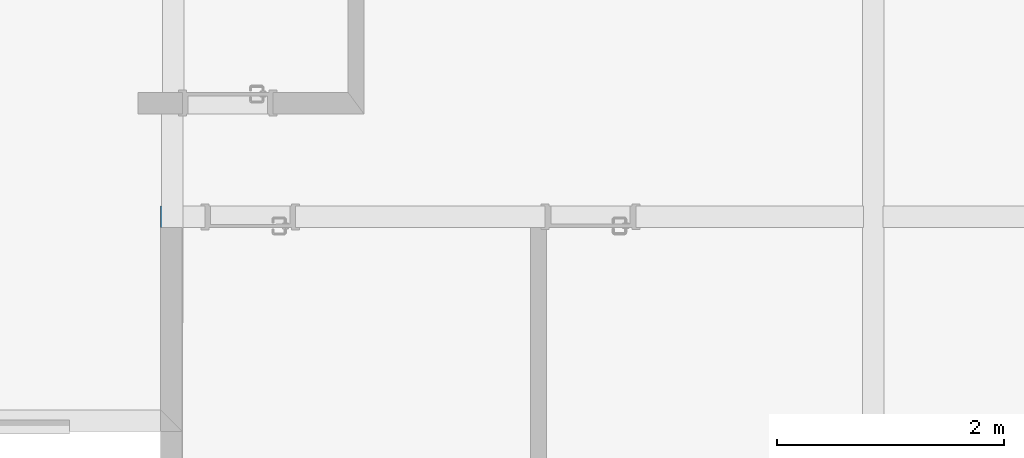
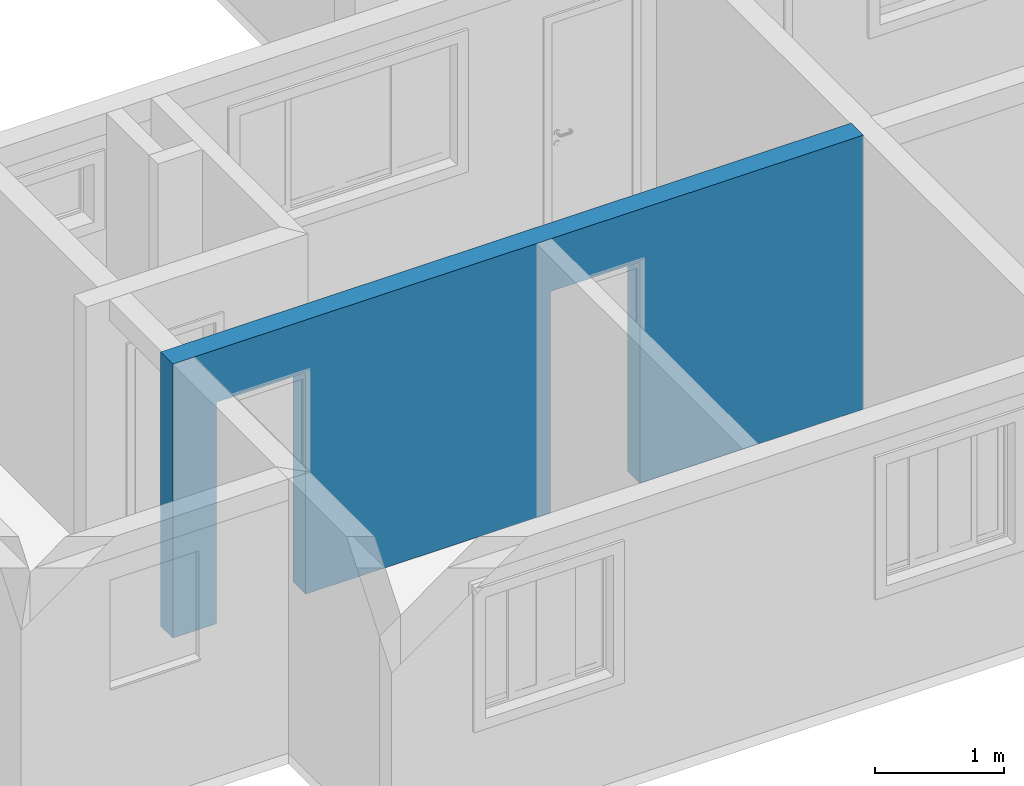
# One storey, part 5 of 43: 1 wall, 2 openings.
"""IFC2X3 building model written with IfcOpenShell, lengths in millimetres."""

import ifcopenshell
import ifcopenshell.guid

model = None  # the IFC model being written
_history = None  # IfcOwnerHistory: only IFC2X3 demands one
_inside = {}  # id of a spatial element -> (the spatial element, [elements in it])
_under = {}  # id of a project, library or spatial element -> (it, [spatial elements below it])
_declared = {}  # id of a project -> (the project, [libraries it declares])
_typed = {}  # id of a type object -> (the type object, [elements of that type])
_made_of = {}  # id of a material, layer set ... -> (it, [elements and type objects made of it])


def new_model(schema):
    """Start an empty IFC model of exactly this schema.

    Asked for "IFC4X3", IfcOpenShell would pick the latest addendum, in which some entities
    have other attributes; the version numbers below select the first issue.
    IFC2X3 requires an IfcOwnerHistory on every rooted entity: one is made here for all.
    """
    global model, _history
    if schema == "IFC4X3":
        model = ifcopenshell.file(schema_version=(4, 3, 0, 0))
    else:
        model = ifcopenshell.file(schema=schema)
    _inside.clear()
    _under.clear()
    _declared.clear()
    _typed.clear()
    _made_of.clear()
    _history = None
    if model.schema == "IFC2X3":
        org = make("IfcOrganization", Name="unknown")
        user = make(
            "IfcPersonAndOrganization",
            ThePerson=make("IfcPerson", FamilyName="unknown"),
            TheOrganization=org,
        )
        app = make(
            "IfcApplication",
            ApplicationDeveloper=org,
            Version="unknown",
            ApplicationFullName="unknown",
            ApplicationIdentifier="unknown",
        )
        _history = make(
            "IfcOwnerHistory",
            OwningUser=user,
            OwningApplication=app,
            ChangeAction="ADDED",
            CreationDate=0,
        )
    return model


def make(cls, **values):
    """One entity of the class cls with the attributes given. An attribute that is None is left unset."""
    return model.create_entity(
        cls, **{name: value for name, value in values.items() if value is not None}
    )


def entity(cls, *values):
    """Any entity or typed value of the class cls, its attributes in the order of the schema. None: left unset."""
    e = model.create_entity(cls)
    for i, value in enumerate(values):
        if value is not None:
            e[i] = value
    return e


def rooted(cls, **values):
    """An entity with a GlobalId (a new one), such as an element, a storey or a relation."""
    return make(cls, GlobalId=ifcopenshell.guid.new(), OwnerHistory=_history, **values)


def si_unit(unit_type, name, prefix=None):
    """IfcSIUnit, for example si_unit("LENGTHUNIT", "METRE", prefix="MILLI")."""
    return make("IfcSIUnit", UnitType=unit_type, Prefix=prefix, Name=name)


def converted_unit(unit_type, name, factor, base, dimensions=None, offset=None):
    """IfcConversionBasedUnit, such as the inch: factor (a typed value) times the base unit."""
    return make(
        "IfcConversionBasedUnit"
        if offset is None
        else "IfcConversionBasedUnitWithOffset",
        ConversionOffset=offset,
        Dimensions=None
        if dimensions is None
        else entity("IfcDimensionalExponents", *dimensions),
        UnitType=unit_type,
        Name=name,
        ConversionFactor=make(
            "IfcMeasureWithUnit", ValueComponent=factor, UnitComponent=base
        ),
    )


def derived_unit(unit_type, elements):
    """IfcDerivedUnit: a product of units, each with its exponent."""
    return make(
        "IfcDerivedUnit",
        Elements=[
            make("IfcDerivedUnitElement", Unit=unit, Exponent=power)
            for unit, power in elements
        ],
        UnitType=unit_type,
    )


def money_unit(currency):
    """IfcMonetaryUnit."""
    return make("IfcMonetaryUnit", Currency=currency)


def assignment(units):
    """IfcUnitAssignment: the units of a project."""
    return None if units is None else make("IfcUnitAssignment", Units=units)


def point(xyz):
    """IfcCartesianPoint."""
    return None if xyz is None else make("IfcCartesianPoint", Coordinates=xyz)


def direction(xyz):
    """IfcDirection."""
    return None if xyz is None else make("IfcDirection", DirectionRatios=xyz)


def frame(location, z_axis=None, x_axis=None):
    """IfcAxis2Placement3D, a coordinate frame: its origin and axes. An axis left out is left unset."""
    return make(
        "IfcAxis2Placement3D",
        Location=point(location),
        Axis=direction(z_axis),
        RefDirection=direction(x_axis),
    )


def frame_2d(location, x_axis=None):
    """IfcAxis2Placement2D, a coordinate frame in the plane: its origin and x axis."""
    return make(
        "IfcAxis2Placement2D", Location=point(location), RefDirection=direction(x_axis)
    )


def origin_with_axes():
    """The frame at (0, 0, 0) with the z axis (0, 0, 1) and the x axis (1, 0, 0) written out."""
    return frame((0.0, 0.0, 0.0), z_axis=(0.0, 0.0, 1.0), x_axis=(1.0, 0.0, 0.0))


def origin_2d_with_axis():
    """The frame at (0, 0) in the plane with the x axis (1, 0) written out."""
    return frame_2d((0.0, 0.0), x_axis=(1.0, 0.0))


def place(relative_to, where):
    """IfcLocalPlacement: puts the frame where relative to a parent placement (None: the world)."""
    return make(
        "IfcLocalPlacement", PlacementRelTo=relative_to, RelativePlacement=where
    )


def context(
    kind, dimensions, precision=None, world=None, true_north=None, identifier=None
):
    """IfcGeometricRepresentationContext, for example the 3D "Model" context."""
    return make(
        "IfcGeometricRepresentationContext",
        ContextIdentifier=identifier,
        ContextType=kind,
        CoordinateSpaceDimension=dimensions,
        Precision=precision,
        WorldCoordinateSystem=world,
        TrueNorth=true_north,
    )


def subcontext(parent, identifier, kind, view, scale=None):
    """IfcGeometricRepresentationSubContext, for example "Body" below "Model"."""
    return make(
        "IfcGeometricRepresentationSubContext",
        ContextIdentifier=identifier,
        ContextType=kind,
        ParentContext=parent,
        TargetScale=scale,
        TargetView=view,
    )


def project(units=None, contexts=None):
    """IfcProject with its units and contexts."""
    return rooted(
        "IfcProject",
        Name="project",
        RepresentationContexts=contexts,
        UnitsInContext=assignment(units),
    )


def spatial(cls, under=None, at=None, **own):
    """A site, building, storey or space (cls), placed at a placement, below another one or the project."""
    s = rooted(cls, ObjectPlacement=at, **own)
    if under is not None:
        _under.setdefault(under.id(), (under, []))[1].append(s)
    return s


def polyline(points):
    """IfcPolyline through the points."""
    return make("IfcPolyline", Points=[point(p) for p in points])


def profile(cls, at=None, kind="AREA", **sizes):
    """A parametric profile (cls). Its sizes go by their IFC names, for example OverallWidth=200.0."""
    return make(cls, ProfileType=kind, Position=at, **sizes)


def rectangle(**sizes):
    """IfcRectangleProfileDef."""
    return profile("IfcRectangleProfileDef", **sizes)


def outline(outer, holes=None, kind="AREA"):
    """IfcArbitraryClosedProfileDef: a profile drawn as a closed curve; with holes, ...WithVoids."""
    if holes is None:
        return make("IfcArbitraryClosedProfileDef", ProfileType=kind, OuterCurve=outer)
    return make(
        "IfcArbitraryProfileDefWithVoids",
        ProfileType=kind,
        OuterCurve=outer,
        InnerCurves=holes,
    )


def extrude(swept, where, along, depth):
    """IfcExtrudedAreaSolid: the profile swept, set in the frame where, extruded along a direction by depth."""
    return make(
        "IfcExtrudedAreaSolid",
        SweptArea=swept,
        Position=where,
        ExtrudedDirection=direction(along),
        Depth=depth,
    )


def shape(context_of_items, identifier, shape_type, items):
    """IfcShapeRepresentation: the items that make up one representation, for example the "Body"."""
    return make(
        "IfcShapeRepresentation",
        ContextOfItems=context_of_items,
        RepresentationIdentifier=identifier,
        RepresentationType=shape_type,
        Items=items,
    )


def material(Name=None, Category=None):
    """IfcMaterial."""
    return make("IfcMaterial", Name=Name, Category=Category)


def layer(
    of_material, thickness, ventilated=None, Name=None, Category=None, Priority=None
):
    """IfcMaterialLayer: one layer of a wall or slab, of a material (None: an air gap)."""
    return make(
        "IfcMaterialLayer",
        Material=of_material,
        LayerThickness=thickness,
        IsVentilated=ventilated,
        Name=Name,
        Category=Category,
        Priority=Priority,
    )


def layer_set(layers, Name=None):
    """IfcMaterialLayerSet."""
    return make("IfcMaterialLayerSet", MaterialLayers=layers, LayerSetName=Name)


def layer_usage(for_layer_set, set_direction, sense, offset, extent=None):
    """IfcMaterialLayerSetUsage: how a layer set lies in its element."""
    return make(
        "IfcMaterialLayerSetUsage",
        ForLayerSet=for_layer_set,
        LayerSetDirection=set_direction,
        DirectionSense=sense,
        OffsetFromReferenceLine=offset,
        ReferenceExtent=extent,
    )


def made_of(thing, what):
    """Note that an element or type object is made of a material, layer set ...; save() writes the relation."""
    if what is not None:
        _made_of.setdefault(what.id(), (what, []))[1].append(thing)
    return thing


def type_object(cls, material=None, **own):
    """A type object (cls), such as IfcWallType, which elements share."""
    return made_of(rooted(cls, **own), material)


def element(
    cls,
    number,
    at=None,
    inside=None,
    cuts=None,
    type_object=None,
    material=None,
    context=None,
    identifier="Body",
    shape_type=None,
    held_by="IfcProductDefinitionShape",
    body=None,
    shapes=None,
    **own,
):
    """One element of the class cls, such as IfcWall. Its Tag is "e" and its number.

    at: its placement. inside: the storey or other place that contains it. cuts: it is an
    opening in that element (IfcRelVoidsElement). A single representation is given by context,
    identifier, shape_type and body (its items); several are given by shapes. held_by: the class
    of the entity that holds the representations. save() writes the other relations.
    """
    e = rooted(cls, Tag="e%d" % number, ObjectPlacement=at, **own)
    if body is not None:
        shapes = [shape(context, identifier, shape_type, body)]
    if shapes is not None:
        e.Representation = make(held_by, Representations=shapes)
    if inside is not None:
        _inside.setdefault(inside.id(), (inside, []))[1].append(e)
    if cuts is not None:
        rooted(
            "IfcRelVoidsElement", RelatingBuildingElement=cuts, RelatedOpeningElement=e
        )
    if type_object is not None:
        _typed.setdefault(type_object.id(), (type_object, []))[1].append(e)
    return made_of(e, material)


def aggregate(whole, parts):
    """IfcRelAggregates: a whole, such as a stair, and the parts it consists of."""
    return rooted("IfcRelAggregates", RelatingObject=whole, RelatedObjects=parts)


def save(model, path):
    """Write the relations noted so far, then the file.

    IfcRelAggregates (storeys below a building ...), IfcRelContainedInSpatialStructure (elements
    in a storey), IfcRelDefinesByType, IfcRelAssociatesMaterial and IfcRelDeclares: one each for
    every whole, place, type object, material and project.
    """
    for whole, parts in _under.values():
        aggregate(whole, parts)
    for where, things in _inside.values():
        rooted(
            "IfcRelContainedInSpatialStructure",
            RelatedElements=things,
            RelatingStructure=where,
        )
    for kind, things in _typed.values():
        rooted("IfcRelDefinesByType", RelatedObjects=things, RelatingType=kind)
    for what, things in _made_of.values():
        rooted("IfcRelAssociatesMaterial", RelatedObjects=things, RelatingMaterial=what)
    for by, libraries in _declared.values():
        rooted("IfcRelDeclares", RelatingContext=by, RelatedDefinitions=libraries)
    model.write(path)


model = new_model("IFC2X3")

# Units and contexts
model_context = context("Model", 3, precision=0.01, world=origin_with_axes(), true_north=direction((0.0, 1.0)))
body_context = subcontext(model_context, "Body", "Model", "MODEL_VIEW")
ifc_project = project(units=[si_unit("LENGTHUNIT", "METRE", prefix="MILLI"), si_unit("AREAUNIT", "SQUARE_METRE"), si_unit("VOLUMEUNIT", "CUBIC_METRE"), converted_unit("PLANEANGLEUNIT", "DEGREE", entity("IfcPlaneAngleMeasure", 0.0174532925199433), si_unit("PLANEANGLEUNIT", "RADIAN"), dimensions=[0, 0, 0, 0, 0, 0, 0]), money_unit("USD"), converted_unit("TIMEUNIT", "Year", entity("IfcTimeMeasure", 31557600.0), si_unit("TIMEUNIT", "SECOND"), dimensions=[0, 0, 1, 0, 0, 0, 0]), si_unit("MASSUNIT", "GRAM", prefix="KILO"), si_unit("THERMODYNAMICTEMPERATUREUNIT", "DEGREE_CELSIUS"), si_unit("LUMINOUSINTENSITYUNIT", "LUMEN"), si_unit("ENERGYUNIT", "JOULE", prefix="MEGA"), derived_unit("THERMALCONDUCTANCEUNIT", [(si_unit("POWERUNIT", "WATT"), 1), (si_unit("LENGTHUNIT", "METRE"), -1), (si_unit("THERMODYNAMICTEMPERATUREUNIT", "KELVIN"), -1)]), derived_unit("SPECIFICHEATCAPACITYUNIT", [(si_unit("ENERGYUNIT", "JOULE"), 1), (si_unit("MASSUNIT", "GRAM", prefix="KILO"), -1), (si_unit("THERMODYNAMICTEMPERATUREUNIT", "KELVIN"), -1)]), derived_unit("MASSDENSITYUNIT", [(si_unit("MASSUNIT", "GRAM", prefix="KILO"), 1), (si_unit("VOLUMEUNIT", "CUBIC_METRE"), -1)])], contexts=[model_context])

# Site, building, storey
site_placement = place(None, origin_with_axes())
site = spatial("IfcSite", under=ifc_project, at=site_placement, Name="Local", CompositionType="ELEMENT")
building_placement = place(site_placement, origin_with_axes())
building = spatial("IfcBuilding", under=site, at=building_placement, Name="Construção", CompositionType="ELEMENT")
storey_placement = place(building_placement, origin_with_axes())
storey = spatial("IfcBuildingStorey", under=building, at=storey_placement, Name="Pavimento Tipo", CompositionType="ELEMENT", Elevation=0.0)

# Wall, openings
ifc_material = material(Name="Concreto - Estrutural")
ifc_layer = layer(ifc_material, 190.0, ventilated="UNKNOWN")
ifc_layer_set = layer_set([ifc_layer], Name="Concreto - Estrutural 190")
ifc_layer_usage = layer_usage(ifc_layer_set, "AXIS2", "NEGATIVE", 190.0)
wall_type = type_object("IfcWallType", Name="Concreto - Estrutural 190", PredefinedType="NOTDEFINED")
wall_placement = place(storey_placement, frame((63710.25571518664, -4768.450075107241, 0.0), z_axis=(0.0, 0.0, 1.0), x_axis=(-0.9999999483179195, -0.0003215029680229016, 0.0)))
wall = element("IfcWallStandardCase", 1, at=wall_placement, inside=storey, type_object=wall_type, material=ifc_layer_usage, Name="Apartamento 3 - Parede-007", context=body_context, shape_type="SweptSolid", body=[
    extrude(outline(polyline([(0.0, 0.0), (6195.390722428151, 0.0), (6195.390722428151, 189.9999999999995), (0.0, 190.0000000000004), (0.0, 0.0)])), origin_with_axes(), (0.0, 0.0, 1.0), 2600.0),
])
opening_1_placement = place(wall_placement, frame((5405.390742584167, 0.0, 0.0), z_axis=(0.0, 0.0, 1.0), x_axis=(1.0, 0.0, 0.0)))
element("IfcOpeningElement", 2, at=opening_1_placement, cuts=wall, Name="Apartamento 3 - P03", context=body_context, shape_type="SweptSolid", body=[
    extrude(rectangle(XDim=800.0000000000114, YDim=2100.0, at=origin_2d_with_axis()), frame((0.0, 190.0000000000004, 1050.0), z_axis=(0.0, -1.0, 0.0), x_axis=(1.0, 0.0, 0.0)), (0.0, 0.0, 1.0), 570.0000000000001),
    extrude(rectangle(XDim=869.9999999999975, YDim=2135.0, at=origin_2d_with_axis()), frame((0.0, 189.9999999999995, 1067.5), z_axis=(0.0, -1.0, 0.0), x_axis=(1.0, 0.0, 0.0)), (0.0, 0.0, -1.0), 190.0),
    extrude(rectangle(XDim=870.0000000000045, YDim=2135.0, at=origin_2d_with_axis()), frame((0.0, 0.0, 1067.5), z_axis=(0.0, 1.0, 0.0), x_axis=(1.0, 0.0, 0.0)), (0.0, 0.0, -1.0), 190.0),
])
opening_2_placement = place(wall_placement, frame((2405.390897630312, 0.0, 0.0), z_axis=(0.0, 0.0, 1.0), x_axis=(1.0, 0.0, 0.0)))
element("IfcOpeningElement", 3, at=opening_2_placement, cuts=wall, Name="Apartamento 3 - P04", context=body_context, shape_type="SweptSolid", body=[
    extrude(rectangle(XDim=800.0000000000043, YDim=2100.0, at=origin_2d_with_axis()), frame((0.0, 189.9999999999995, 1050.0), z_axis=(0.0, -1.0, 0.0), x_axis=(1.0, 0.0, 0.0)), (0.0, 0.0, 1.0), 570.0000000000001),
    extrude(rectangle(XDim=869.9999999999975, YDim=2135.0, at=origin_2d_with_axis()), frame((0.0, 189.9999999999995, 1067.5), z_axis=(0.0, -1.0, 0.0), x_axis=(1.0, 0.0, 0.0)), (0.0, 0.0, -1.0), 190.0),
    extrude(rectangle(XDim=869.9999999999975, YDim=2135.0, at=origin_2d_with_axis()), frame((0.0, 0.0, 1067.5), z_axis=(0.0, 1.0, 0.0), x_axis=(1.0, 0.0, 0.0)), (0.0, 0.0, -1.0), 190.0),
])

save(model, "model.ifc")
